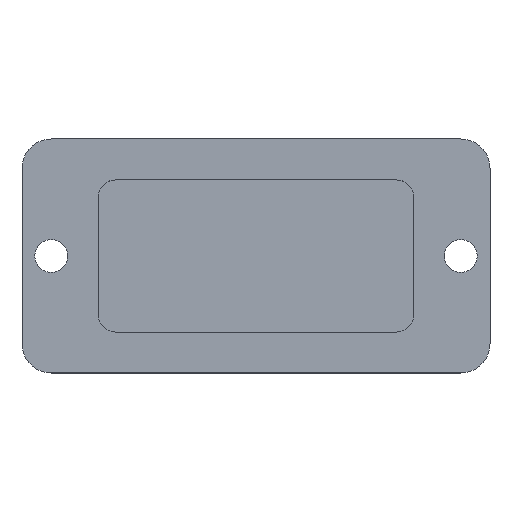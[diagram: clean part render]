
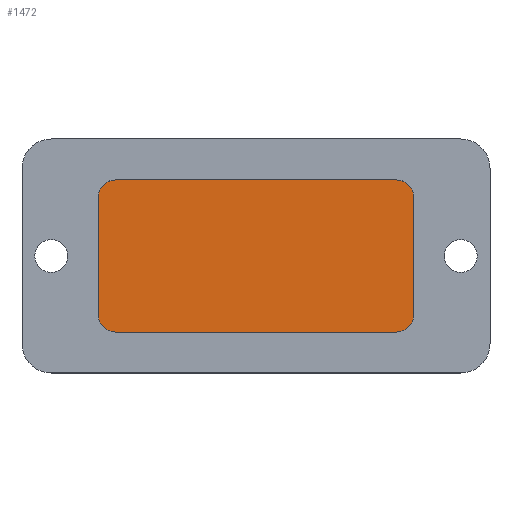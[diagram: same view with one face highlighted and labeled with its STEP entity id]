
A CAD part, top view. The second image highlights one B-rep face of the part: STEP entity #1472.
In plain terms, the highlighted planar face has unit normal (0, 0, 1).
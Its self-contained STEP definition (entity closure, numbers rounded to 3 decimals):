
#653 = CYLINDRICAL_SURFACE('',#654,1.5);
#654 = AXIS2_PLACEMENT_3D('',#655,#656,#657);
#655 = CARTESIAN_POINT('',(12.,-5.,-0.1));
#656 = DIRECTION('',(0.,0.,1.));
#657 = DIRECTION('',(0.,-1.,0.));
#680 = PLANE('',#681);
#681 = AXIS2_PLACEMENT_3D('',#682,#683,#684);
#682 = CARTESIAN_POINT('',(-13.5,-6.5,-0.1));
#683 = DIRECTION('',(0.,1.,0.));
#684 = DIRECTION('',(1.,0.,0.));
#708 = CYLINDRICAL_SURFACE('',#709,1.5);
#709 = AXIS2_PLACEMENT_3D('',#710,#711,#712);
#710 = CARTESIAN_POINT('',(-12.,-5.,-0.1));
#711 = DIRECTION('',(0.,0.,1.));
#712 = DIRECTION('',(0.,-1.,0.));
#735 = PLANE('',#736);
#736 = AXIS2_PLACEMENT_3D('',#737,#738,#739);
#737 = CARTESIAN_POINT('',(-13.5,6.5,-0.1));
#738 = DIRECTION('',(1.,0.,-0.));
#739 = DIRECTION('',(0.,-1.,0.));
#763 = CYLINDRICAL_SURFACE('',#764,1.5);
#764 = AXIS2_PLACEMENT_3D('',#765,#766,#767);
#765 = CARTESIAN_POINT('',(-12.,5.,-0.1));
#766 = DIRECTION('',(0.,0.,1.));
#767 = DIRECTION('',(-0.,1.,0.));
#790 = PLANE('',#791);
#791 = AXIS2_PLACEMENT_3D('',#792,#793,#794);
#792 = CARTESIAN_POINT('',(13.5,6.5,-0.1));
#793 = DIRECTION('',(0.,-1.,0.));
#794 = DIRECTION('',(-1.,0.,0.));
#818 = CYLINDRICAL_SURFACE('',#819,1.5);
#819 = AXIS2_PLACEMENT_3D('',#820,#821,#822);
#820 = CARTESIAN_POINT('',(12.,5.,-0.1));
#821 = DIRECTION('',(0.,0.,1.));
#822 = DIRECTION('',(1.,0.,-0.));
#843 = PLANE('',#844);
#844 = AXIS2_PLACEMENT_3D('',#845,#846,#847);
#845 = CARTESIAN_POINT('',(13.5,-6.5,-0.1));
#846 = DIRECTION('',(-1.,0.,0.));
#847 = DIRECTION('',(0.,1.,0.));
#1084 = VERTEX_POINT('',#1085);
#1085 = CARTESIAN_POINT('',(12.,-6.5,0.6));
#1106 = EDGE_CURVE('',#1084,#1107,#1109,.T.);
#1107 = VERTEX_POINT('',#1108);
#1108 = CARTESIAN_POINT('',(13.5,-5.,0.6));
#1109 = SURFACE_CURVE('',#1110,(#1115,#1122),.PCURVE_S1.);
#1110 = CIRCLE('',#1111,1.5);
#1111 = AXIS2_PLACEMENT_3D('',#1112,#1113,#1114);
#1112 = CARTESIAN_POINT('',(12.,-5.,0.6));
#1113 = DIRECTION('',(0.,0.,1.));
#1114 = DIRECTION('',(0.,-1.,0.));
#1115 = PCURVE('',#653,#1116);
#1116 = DEFINITIONAL_REPRESENTATION('',(#1117),#1121);
#1117 = LINE('',#1118,#1119);
#1118 = CARTESIAN_POINT('',(0.,0.7));
#1119 = VECTOR('',#1120,1.);
#1120 = DIRECTION('',(1.,0.));
#1121 = ( GEOMETRIC_REPRESENTATION_CONTEXT(2) 
PARAMETRIC_REPRESENTATION_CONTEXT() REPRESENTATION_CONTEXT('2D SPACE',''
  ) );
#1122 = PCURVE('',#1123,#1128);
#1123 = PLANE('',#1124);
#1124 = AXIS2_PLACEMENT_3D('',#1125,#1126,#1127);
#1125 = CARTESIAN_POINT('',(0.,0.,0.6));
#1126 = DIRECTION('',(0.,0.,1.));
#1127 = DIRECTION('',(1.,0.,-0.));
#1128 = DEFINITIONAL_REPRESENTATION('',(#1129),#1133);
#1129 = CIRCLE('',#1130,1.5);
#1130 = AXIS2_PLACEMENT_2D('',#1131,#1132);
#1131 = CARTESIAN_POINT('',(12.,-5.));
#1132 = DIRECTION('',(0.,-1.));
#1133 = ( GEOMETRIC_REPRESENTATION_CONTEXT(2) 
PARAMETRIC_REPRESENTATION_CONTEXT() REPRESENTATION_CONTEXT('2D SPACE',''
  ) );
#1161 = EDGE_CURVE('',#1084,#1162,#1164,.T.);
#1162 = VERTEX_POINT('',#1163);
#1163 = CARTESIAN_POINT('',(-12.,-6.5,0.6));
#1164 = SURFACE_CURVE('',#1165,(#1169,#1175),.PCURVE_S1.);
#1165 = LINE('',#1166,#1167);
#1166 = CARTESIAN_POINT('',(-6.75,-6.5,0.6));
#1167 = VECTOR('',#1168,1.);
#1168 = DIRECTION('',(-1.,0.,0.));
#1169 = PCURVE('',#680,#1170);
#1170 = DEFINITIONAL_REPRESENTATION('',(#1171),#1174);
#1171 = B_SPLINE_CURVE_WITH_KNOTS('',1,(#1172,#1173),.UNSPECIFIED.,.F.,
  .F.,(2,2),(-18.75,5.25),.PIECEWISE_BEZIER_KNOTS.);
#1172 = CARTESIAN_POINT('',(25.5,-0.7));
#1173 = CARTESIAN_POINT('',(1.5,-0.7));
#1174 = ( GEOMETRIC_REPRESENTATION_CONTEXT(2) 
PARAMETRIC_REPRESENTATION_CONTEXT() REPRESENTATION_CONTEXT('2D SPACE',''
  ) );
#1175 = PCURVE('',#1123,#1176);
#1176 = DEFINITIONAL_REPRESENTATION('',(#1177),#1180);
#1177 = B_SPLINE_CURVE_WITH_KNOTS('',1,(#1178,#1179),.UNSPECIFIED.,.F.,
  .F.,(2,2),(-18.75,5.25),.PIECEWISE_BEZIER_KNOTS.);
#1178 = CARTESIAN_POINT('',(12.,-6.5));
#1179 = CARTESIAN_POINT('',(-12.,-6.5));
#1180 = ( GEOMETRIC_REPRESENTATION_CONTEXT(2) 
PARAMETRIC_REPRESENTATION_CONTEXT() REPRESENTATION_CONTEXT('2D SPACE',''
  ) );
#1208 = VERTEX_POINT('',#1209);
#1209 = CARTESIAN_POINT('',(13.5,5.,0.6));
#1230 = EDGE_CURVE('',#1208,#1107,#1231,.T.);
#1231 = SURFACE_CURVE('',#1232,(#1236,#1242),.PCURVE_S1.);
#1232 = LINE('',#1233,#1234);
#1233 = CARTESIAN_POINT('',(13.5,-3.25,0.6));
#1234 = VECTOR('',#1235,1.);
#1235 = DIRECTION('',(0.,-1.,0.));
#1236 = PCURVE('',#843,#1237);
#1237 = DEFINITIONAL_REPRESENTATION('',(#1238),#1241);
#1238 = B_SPLINE_CURVE_WITH_KNOTS('',1,(#1239,#1240),.UNSPECIFIED.,.F.,
  .F.,(2,2),(-8.25,1.75),.PIECEWISE_BEZIER_KNOTS.);
#1239 = CARTESIAN_POINT('',(11.5,-0.7));
#1240 = CARTESIAN_POINT('',(1.5,-0.7));
#1241 = ( GEOMETRIC_REPRESENTATION_CONTEXT(2) 
PARAMETRIC_REPRESENTATION_CONTEXT() REPRESENTATION_CONTEXT('2D SPACE',''
  ) );
#1242 = PCURVE('',#1123,#1243);
#1243 = DEFINITIONAL_REPRESENTATION('',(#1244),#1247);
#1244 = B_SPLINE_CURVE_WITH_KNOTS('',1,(#1245,#1246),.UNSPECIFIED.,.F.,
  .F.,(2,2),(-8.25,1.75),.PIECEWISE_BEZIER_KNOTS.);
#1245 = CARTESIAN_POINT('',(13.5,5.));
#1246 = CARTESIAN_POINT('',(13.5,-5.));
#1247 = ( GEOMETRIC_REPRESENTATION_CONTEXT(2) 
PARAMETRIC_REPRESENTATION_CONTEXT() REPRESENTATION_CONTEXT('2D SPACE',''
  ) );
#1255 = EDGE_CURVE('',#1256,#1162,#1258,.T.);
#1256 = VERTEX_POINT('',#1257);
#1257 = CARTESIAN_POINT('',(-13.5,-5.,0.6));
#1258 = SURFACE_CURVE('',#1259,(#1264,#1271),.PCURVE_S1.);
#1259 = CIRCLE('',#1260,1.5);
#1260 = AXIS2_PLACEMENT_3D('',#1261,#1262,#1263);
#1261 = CARTESIAN_POINT('',(-12.,-5.,0.6));
#1262 = DIRECTION('',(0.,0.,1.));
#1263 = DIRECTION('',(0.,-1.,0.));
#1264 = PCURVE('',#708,#1265);
#1265 = DEFINITIONAL_REPRESENTATION('',(#1266),#1270);
#1266 = LINE('',#1267,#1268);
#1267 = CARTESIAN_POINT('',(-6.283,0.7));
#1268 = VECTOR('',#1269,1.);
#1269 = DIRECTION('',(1.,-0.));
#1270 = ( GEOMETRIC_REPRESENTATION_CONTEXT(2) 
PARAMETRIC_REPRESENTATION_CONTEXT() REPRESENTATION_CONTEXT('2D SPACE',''
  ) );
#1271 = PCURVE('',#1123,#1272);
#1272 = DEFINITIONAL_REPRESENTATION('',(#1273),#1277);
#1273 = CIRCLE('',#1274,1.5);
#1274 = AXIS2_PLACEMENT_2D('',#1275,#1276);
#1275 = CARTESIAN_POINT('',(-12.,-5.));
#1276 = DIRECTION('',(0.,-1.));
#1277 = ( GEOMETRIC_REPRESENTATION_CONTEXT(2) 
PARAMETRIC_REPRESENTATION_CONTEXT() REPRESENTATION_CONTEXT('2D SPACE',''
  ) );
#1305 = EDGE_CURVE('',#1208,#1306,#1308,.T.);
#1306 = VERTEX_POINT('',#1307);
#1307 = CARTESIAN_POINT('',(12.,6.5,0.6));
#1308 = SURFACE_CURVE('',#1309,(#1314,#1321),.PCURVE_S1.);
#1309 = CIRCLE('',#1310,1.5);
#1310 = AXIS2_PLACEMENT_3D('',#1311,#1312,#1313);
#1311 = CARTESIAN_POINT('',(12.,5.,0.6));
#1312 = DIRECTION('',(0.,0.,1.));
#1313 = DIRECTION('',(1.,0.,-0.));
#1314 = PCURVE('',#818,#1315);
#1315 = DEFINITIONAL_REPRESENTATION('',(#1316),#1320);
#1316 = LINE('',#1317,#1318);
#1317 = CARTESIAN_POINT('',(0.,0.7));
#1318 = VECTOR('',#1319,1.);
#1319 = DIRECTION('',(1.,0.));
#1320 = ( GEOMETRIC_REPRESENTATION_CONTEXT(2) 
PARAMETRIC_REPRESENTATION_CONTEXT() REPRESENTATION_CONTEXT('2D SPACE',''
  ) );
#1321 = PCURVE('',#1123,#1322);
#1322 = DEFINITIONAL_REPRESENTATION('',(#1323),#1327);
#1323 = CIRCLE('',#1324,1.5);
#1324 = AXIS2_PLACEMENT_2D('',#1325,#1326);
#1325 = CARTESIAN_POINT('',(12.,5.));
#1326 = DIRECTION('',(1.,0.));
#1327 = ( GEOMETRIC_REPRESENTATION_CONTEXT(2) 
PARAMETRIC_REPRESENTATION_CONTEXT() REPRESENTATION_CONTEXT('2D SPACE',''
  ) );
#1355 = EDGE_CURVE('',#1256,#1356,#1358,.T.);
#1356 = VERTEX_POINT('',#1357);
#1357 = CARTESIAN_POINT('',(-13.5,5.,0.6));
#1358 = SURFACE_CURVE('',#1359,(#1363,#1369),.PCURVE_S1.);
#1359 = LINE('',#1360,#1361);
#1360 = CARTESIAN_POINT('',(-13.5,3.25,0.6));
#1361 = VECTOR('',#1362,1.);
#1362 = DIRECTION('',(-0.,1.,0.));
#1363 = PCURVE('',#735,#1364);
#1364 = DEFINITIONAL_REPRESENTATION('',(#1365),#1368);
#1365 = B_SPLINE_CURVE_WITH_KNOTS('',1,(#1366,#1367),.UNSPECIFIED.,.F.,
  .F.,(2,2),(-8.25,1.75),.PIECEWISE_BEZIER_KNOTS.);
#1366 = CARTESIAN_POINT('',(11.5,-0.7));
#1367 = CARTESIAN_POINT('',(1.5,-0.7));
#1368 = ( GEOMETRIC_REPRESENTATION_CONTEXT(2) 
PARAMETRIC_REPRESENTATION_CONTEXT() REPRESENTATION_CONTEXT('2D SPACE',''
  ) );
#1369 = PCURVE('',#1123,#1370);
#1370 = DEFINITIONAL_REPRESENTATION('',(#1371),#1374);
#1371 = B_SPLINE_CURVE_WITH_KNOTS('',1,(#1372,#1373),.UNSPECIFIED.,.F.,
  .F.,(2,2),(-8.25,1.75),.PIECEWISE_BEZIER_KNOTS.);
#1372 = CARTESIAN_POINT('',(-13.5,-5.));
#1373 = CARTESIAN_POINT('',(-13.5,5.));
#1374 = ( GEOMETRIC_REPRESENTATION_CONTEXT(2) 
PARAMETRIC_REPRESENTATION_CONTEXT() REPRESENTATION_CONTEXT('2D SPACE',''
  ) );
#1402 = VERTEX_POINT('',#1403);
#1403 = CARTESIAN_POINT('',(-12.,6.5,0.6));
#1424 = EDGE_CURVE('',#1402,#1306,#1425,.T.);
#1425 = SURFACE_CURVE('',#1426,(#1430,#1436),.PCURVE_S1.);
#1426 = LINE('',#1427,#1428);
#1427 = CARTESIAN_POINT('',(6.75,6.5,0.6));
#1428 = VECTOR('',#1429,1.);
#1429 = DIRECTION('',(1.,0.,-0.));
#1430 = PCURVE('',#790,#1431);
#1431 = DEFINITIONAL_REPRESENTATION('',(#1432),#1435);
#1432 = B_SPLINE_CURVE_WITH_KNOTS('',1,(#1433,#1434),.UNSPECIFIED.,.F.,
  .F.,(2,2),(-18.75,5.25),.PIECEWISE_BEZIER_KNOTS.);
#1433 = CARTESIAN_POINT('',(25.5,-0.7));
#1434 = CARTESIAN_POINT('',(1.5,-0.7));
#1435 = ( GEOMETRIC_REPRESENTATION_CONTEXT(2) 
PARAMETRIC_REPRESENTATION_CONTEXT() REPRESENTATION_CONTEXT('2D SPACE',''
  ) );
#1436 = PCURVE('',#1123,#1437);
#1437 = DEFINITIONAL_REPRESENTATION('',(#1438),#1441);
#1438 = B_SPLINE_CURVE_WITH_KNOTS('',1,(#1439,#1440),.UNSPECIFIED.,.F.,
  .F.,(2,2),(-18.75,5.25),.PIECEWISE_BEZIER_KNOTS.);
#1439 = CARTESIAN_POINT('',(-12.,6.5));
#1440 = CARTESIAN_POINT('',(12.,6.5));
#1441 = ( GEOMETRIC_REPRESENTATION_CONTEXT(2) 
PARAMETRIC_REPRESENTATION_CONTEXT() REPRESENTATION_CONTEXT('2D SPACE',''
  ) );
#1449 = EDGE_CURVE('',#1402,#1356,#1450,.T.);
#1450 = SURFACE_CURVE('',#1451,(#1456,#1463),.PCURVE_S1.);
#1451 = CIRCLE('',#1452,1.5);
#1452 = AXIS2_PLACEMENT_3D('',#1453,#1454,#1455);
#1453 = CARTESIAN_POINT('',(-12.,5.,0.6));
#1454 = DIRECTION('',(0.,0.,1.));
#1455 = DIRECTION('',(-0.,1.,0.));
#1456 = PCURVE('',#763,#1457);
#1457 = DEFINITIONAL_REPRESENTATION('',(#1458),#1462);
#1458 = LINE('',#1459,#1460);
#1459 = CARTESIAN_POINT('',(0.,0.7));
#1460 = VECTOR('',#1461,1.);
#1461 = DIRECTION('',(1.,0.));
#1462 = ( GEOMETRIC_REPRESENTATION_CONTEXT(2) 
PARAMETRIC_REPRESENTATION_CONTEXT() REPRESENTATION_CONTEXT('2D SPACE',''
  ) );
#1463 = PCURVE('',#1123,#1464);
#1464 = DEFINITIONAL_REPRESENTATION('',(#1465),#1469);
#1465 = CIRCLE('',#1466,1.5);
#1466 = AXIS2_PLACEMENT_2D('',#1467,#1468);
#1467 = CARTESIAN_POINT('',(-12.,5.));
#1468 = DIRECTION('',(0.,1.));
#1469 = ( GEOMETRIC_REPRESENTATION_CONTEXT(2) 
PARAMETRIC_REPRESENTATION_CONTEXT() REPRESENTATION_CONTEXT('2D SPACE',''
  ) );
#1472 = ADVANCED_FACE('',(#1473),#1123,.T.);
#1473 = FACE_BOUND('',#1474,.T.);
#1474 = EDGE_LOOP('',(#1475,#1476,#1477,#1478,#1479,#1480,#1481,#1482));
#1475 = ORIENTED_EDGE('',*,*,#1161,.F.);
#1476 = ORIENTED_EDGE('',*,*,#1106,.T.);
#1477 = ORIENTED_EDGE('',*,*,#1230,.F.);
#1478 = ORIENTED_EDGE('',*,*,#1305,.T.);
#1479 = ORIENTED_EDGE('',*,*,#1424,.F.);
#1480 = ORIENTED_EDGE('',*,*,#1449,.T.);
#1481 = ORIENTED_EDGE('',*,*,#1355,.F.);
#1482 = ORIENTED_EDGE('',*,*,#1255,.T.);
